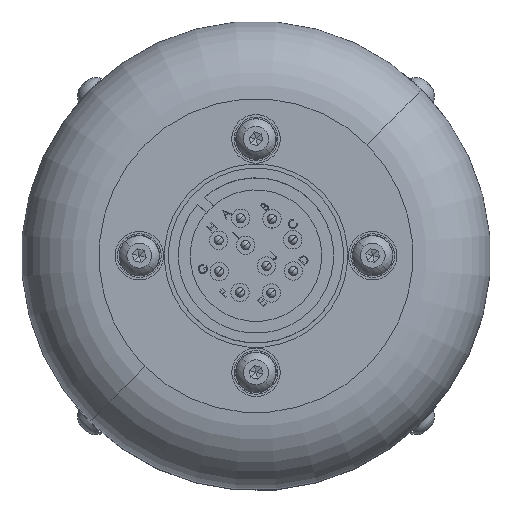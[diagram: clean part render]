
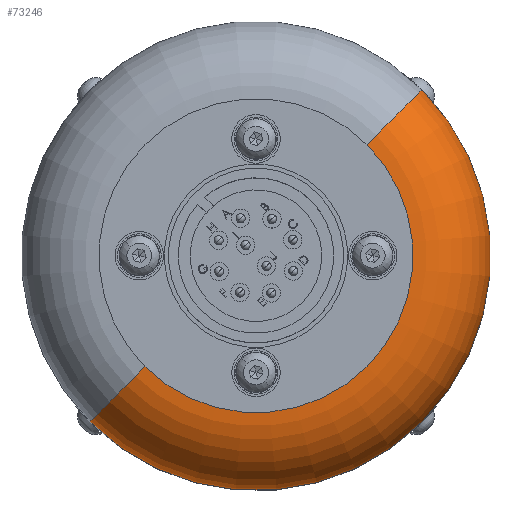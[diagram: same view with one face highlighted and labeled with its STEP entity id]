
A CAD part, top view. The second image highlights one B-rep face of the part: STEP entity #73246.
In plain terms, the highlighted toroidal (fillet/blend) face has major radius 25.654 mm and minor radius 12.7 mm.
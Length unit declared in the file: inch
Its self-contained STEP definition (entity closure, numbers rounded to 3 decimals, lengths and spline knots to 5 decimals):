
#171 = TOROIDAL_SURFACE ( 'NONE', #55494, 1.01, 0.5 ) ;
#308 = DIRECTION ( 'NONE',  ( -1., 0., 0. ) ) ;
#599 = DIRECTION ( 'NONE',  ( 0., 0., -1. ) ) ;
#4275 = CIRCLE ( 'NONE', #49714, 1.51 ) ;
#5131 = CARTESIAN_POINT ( 'NONE',  ( -1.01, 0., 0. ) ) ;
#5620 = EDGE_CURVE ( 'NONE', #87210, #7186, #23239, .T. ) ;
#6280 = CARTESIAN_POINT ( 'NONE',  ( 1.01, 0., 0. ) ) ;
#7186 = VERTEX_POINT ( 'NONE', #6280 ) ;
#7963 = CARTESIAN_POINT ( 'NONE',  ( -1.51, 0., 0.5 ) ) ;
#9014 = DIRECTION ( 'NONE',  ( -1., 0., 0. ) ) ;
#10672 = CARTESIAN_POINT ( 'NONE',  ( -1.01, 0., 0.5 ) ) ;
#14502 = CARTESIAN_POINT ( 'NONE',  ( 0., 0., 0. ) ) ;
#17586 = ORIENTED_EDGE ( 'NONE', *, *, #43287, .F. ) ;
#19658 = ORIENTED_EDGE ( 'NONE', *, *, #52485, .T. ) ;
#20304 = CARTESIAN_POINT ( 'NONE',  ( 0., 0., 0.5 ) ) ;
#23239 = CIRCLE ( 'NONE', #47354, 0.5 ) ;
#28762 = CIRCLE ( 'NONE', #51452, 0.5 ) ;
#30494 = VERTEX_POINT ( 'NONE', #7963 ) ;
#30713 = DIRECTION ( 'NONE',  ( 0., 0., -1. ) ) ;
#37748 = EDGE_CURVE ( 'NONE', #30494, #87559, #28762, .T. ) ;
#42506 = DIRECTION ( 'NONE',  ( 0., 0., -1. ) ) ;
#43287 = EDGE_CURVE ( 'NONE', #7186, #87559, #50422, .T. ) ;
#47354 = AXIS2_PLACEMENT_3D ( 'NONE', #77001, #69885, #9014 ) ;
#49010 = DIRECTION ( 'NONE',  ( -1., 0., 0. ) ) ;
#49714 = AXIS2_PLACEMENT_3D ( 'NONE', #20304, #55840, #308 ) ;
#50422 = CIRCLE ( 'NONE', #80189, 1.01 ) ;
#50696 = DIRECTION ( 'NONE',  ( 0., -1., 0. ) ) ;
#51452 = AXIS2_PLACEMENT_3D ( 'NONE', #10672, #50696, #30713 ) ;
#52485 = EDGE_CURVE ( 'NONE', #87210, #30494, #4275, .T. ) ;
#55494 = AXIS2_PLACEMENT_3D ( 'NONE', #75656, #599, #49010 ) ;
#55840 = DIRECTION ( 'NONE',  ( 0., 0., -1. ) ) ;
#61945 = ORIENTED_EDGE ( 'NONE', *, *, #5620, .F. ) ;
#62026 = DIRECTION ( 'NONE',  ( -1., 0., 0. ) ) ;
#62289 = FACE_OUTER_BOUND ( 'NONE', #68048, .T. ) ;
#68048 = EDGE_LOOP ( 'NONE', ( #61945, #19658, #84240, #17586 ) ) ;
#69885 = DIRECTION ( 'NONE',  ( 0., 1., 0. ) ) ;
#73246 = ADVANCED_FACE ( 'NONE', ( #62289 ), #171, .T. ) ;
#75656 = CARTESIAN_POINT ( 'NONE',  ( 0., 0., 0.5 ) ) ;
#77001 = CARTESIAN_POINT ( 'NONE',  ( 1.01, 0., 0.5 ) ) ;
#80189 = AXIS2_PLACEMENT_3D ( 'NONE', #14502, #42506, #62026 ) ;
#80408 = CARTESIAN_POINT ( 'NONE',  ( 1.51, 0., 0.5 ) ) ;
#84240 = ORIENTED_EDGE ( 'NONE', *, *, #37748, .T. ) ;
#87210 = VERTEX_POINT ( 'NONE', #80408 ) ;
#87559 = VERTEX_POINT ( 'NONE', #5131 ) ;
